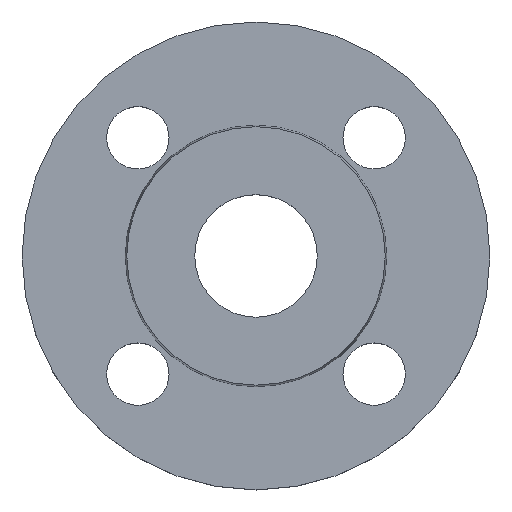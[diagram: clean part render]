
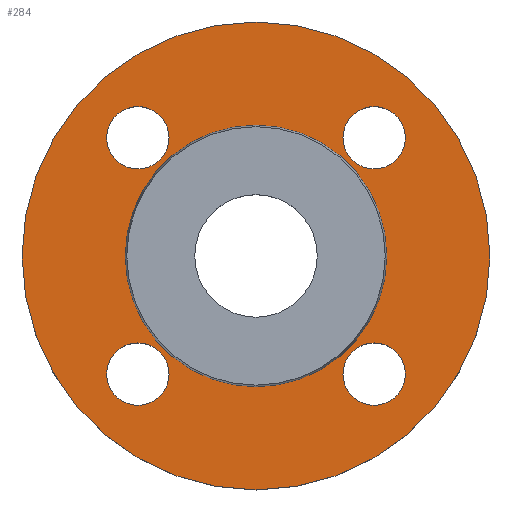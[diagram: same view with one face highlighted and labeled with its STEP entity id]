
A CAD part, top view. The second image highlights one B-rep face of the part: STEP entity #284.
In plain terms, the highlighted planar face has unit normal (0, 0, 1).
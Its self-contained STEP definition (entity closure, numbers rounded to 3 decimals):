
#13 = CIRCLE ( 'NONE', #22, 7. ) ;
#16 = CIRCLE ( 'NONE', #17, 7. ) ;
#17 = AXIS2_PLACEMENT_3D ( 'NONE', #171, #170, #168 ) ;
#18 = CIRCLE ( 'NONE', #23, 7. ) ;
#22 = AXIS2_PLACEMENT_3D ( 'NONE', #192, #191, #182 ) ;
#23 = AXIS2_PLACEMENT_3D ( 'NONE', #166, #164, #158 ) ;
#25 = CIRCLE ( 'NONE', #30, 7. ) ;
#30 = AXIS2_PLACEMENT_3D ( 'NONE', #137, #136, #133 ) ;
#32 = EDGE_CURVE ( 'NONE', #188, #371, #228, .T. ) ;
#37 = AXIS2_PLACEMENT_3D ( 'NONE', #370, #378, #376 ) ;
#39 = EDGE_CURVE ( 'NONE', #367, #349, #213, .T. ) ;
#41 = EDGE_CURVE ( 'NONE', #384, #172, #208, .T. ) ;
#57 = CIRCLE ( 'NONE', #90, 7. ) ;
#58 = AXIS2_PLACEMENT_3D ( 'NONE', #339, #337, #333 ) ;
#59 = CIRCLE ( 'NONE', #58, 7. ) ;
#81 = AXIS2_PLACEMENT_3D ( 'NONE', #480, #498, #459 ) ;
#90 = AXIS2_PLACEMENT_3D ( 'NONE', #332, #331, #330 ) ;
#99 = EDGE_CURVE ( 'NONE', #172, #384, #175, .T. ) ;
#105 = EDGE_CURVE ( 'NONE', #457, #381, #167, .T. ) ;
#119 = CIRCLE ( 'NONE', #37, 52.5 ) ;
#125 = VERTEX_POINT ( 'NONE', #555 ) ;
#133 = DIRECTION ( 'NONE',  ( 1., 0., 0. ) ) ;
#136 = DIRECTION ( 'NONE',  ( 0., 0., -1. ) ) ;
#137 = CARTESIAN_POINT ( 'NONE',  ( -26.517, -26.517, -2. ) ) ;
#145 = EDGE_LOOP ( 'NONE', ( #397, #375 ) ) ;
#158 = DIRECTION ( 'NONE',  ( 1., 0., 0. ) ) ;
#160 = AXIS2_PLACEMENT_3D ( 'NONE', #551, #552, #553 ) ;
#162 = EDGE_LOOP ( 'NONE', ( #394, #462 ) ) ;
#164 = DIRECTION ( 'NONE',  ( 0., 0., -1. ) ) ;
#165 = EDGE_LOOP ( 'NONE', ( #389, #387 ) ) ;
#166 = CARTESIAN_POINT ( 'NONE',  ( 26.517, 26.517, -2. ) ) ;
#167 = CIRCLE ( 'NONE', #160, 7. ) ;
#168 = DIRECTION ( 'NONE',  ( 1., 0., 0. ) ) ;
#169 = EDGE_LOOP ( 'NONE', ( #393, #388 ) ) ;
#170 = DIRECTION ( 'NONE',  ( 0., 0., -1. ) ) ;
#171 = CARTESIAN_POINT ( 'NONE',  ( 26.517, 26.517, -2. ) ) ;
#172 = VERTEX_POINT ( 'NONE', #566 ) ;
#174 = AXIS2_PLACEMENT_3D ( 'NONE', #540, #541, #542 ) ;
#175 = CIRCLE ( 'NONE', #174, 29.353 ) ;
#182 = DIRECTION ( 'NONE',  ( 1., 0., 0. ) ) ;
#186 = EDGE_LOOP ( 'NONE', ( #372, #391 ) ) ;
#188 = VERTEX_POINT ( 'NONE', #358 ) ;
#190 = EDGE_LOOP ( 'NONE', ( #379, #382 ) ) ;
#191 = DIRECTION ( 'NONE',  ( 0., 0., -1. ) ) ;
#192 = CARTESIAN_POINT ( 'NONE',  ( -26.517, -26.517, -2. ) ) ;
#206 = AXIS2_PLACEMENT_3D ( 'NONE', #512, #513, #514 ) ;
#208 = CIRCLE ( 'NONE', #206, 29.353 ) ;
#210 = EDGE_CURVE ( 'NONE', #371, #188, #119, .T. ) ;
#212 = AXIS2_PLACEMENT_3D ( 'NONE', #508, #509, #511 ) ;
#213 = CIRCLE ( 'NONE', #212, 7. ) ;
#228 = CIRCLE ( 'NONE', #243, 52.5 ) ;
#243 = AXIS2_PLACEMENT_3D ( 'NONE', #463, #503, #504 ) ;
#253 = CARTESIAN_POINT ( 'NONE',  ( -19.517, 26.517, -2. ) ) ;
#262 = CARTESIAN_POINT ( 'NONE',  ( 33.517, 26.517, -2. ) ) ;
#284 = ADVANCED_FACE ( 'NONE', ( #485, #464, #486, #450, #484, #447 ), #465, .T. ) ;
#306 = CARTESIAN_POINT ( 'NONE',  ( -29.353, 0., -2. ) ) ;
#318 = CARTESIAN_POINT ( 'NONE',  ( -33.517, 26.517, -2. ) ) ;
#319 = CARTESIAN_POINT ( 'NONE',  ( -52.5, 0., -2. ) ) ;
#321 = EDGE_CURVE ( 'NONE', #381, #457, #59, .T. ) ;
#322 = CARTESIAN_POINT ( 'NONE',  ( 33.517, -26.517, -2. ) ) ;
#323 = CARTESIAN_POINT ( 'NONE',  ( -33.517, -26.517, -2. ) ) ;
#328 = CARTESIAN_POINT ( 'NONE',  ( 19.517, -26.517, -2. ) ) ;
#329 = CARTESIAN_POINT ( 'NONE',  ( -19.517, -26.517, -2. ) ) ;
#330 = DIRECTION ( 'NONE',  ( 1., 0., 0. ) ) ;
#331 = DIRECTION ( 'NONE',  ( 0., 0., -1. ) ) ;
#332 = CARTESIAN_POINT ( 'NONE',  ( 26.517, -26.517, -2. ) ) ;
#333 = DIRECTION ( 'NONE',  ( 1., 0., 0. ) ) ;
#337 = DIRECTION ( 'NONE',  ( 0., 0., -1. ) ) ;
#339 = CARTESIAN_POINT ( 'NONE',  ( -26.517, 26.517, -2. ) ) ;
#344 = EDGE_CURVE ( 'NONE', #349, #367, #57, .T. ) ;
#345 = VERTEX_POINT ( 'NONE', #329 ) ;
#349 = VERTEX_POINT ( 'NONE', #328 ) ;
#358 = CARTESIAN_POINT ( 'NONE',  ( 52.5, 0., -2. ) ) ;
#362 = VERTEX_POINT ( 'NONE', #323 ) ;
#367 = VERTEX_POINT ( 'NONE', #322 ) ;
#370 = CARTESIAN_POINT ( 'NONE',  ( 0., 0., -2. ) ) ;
#371 = VERTEX_POINT ( 'NONE', #319 ) ;
#372 = ORIENTED_EDGE ( 'NONE', *, *, #105, .T. ) ;
#375 = ORIENTED_EDGE ( 'NONE', *, *, #344, .T. ) ;
#376 = DIRECTION ( 'NONE',  ( -1., 0., 0. ) ) ;
#378 = DIRECTION ( 'NONE',  ( 0., 0., -1. ) ) ;
#379 = ORIENTED_EDGE ( 'NONE', *, *, #529, .T. ) ;
#381 = VERTEX_POINT ( 'NONE', #318 ) ;
#382 = ORIENTED_EDGE ( 'NONE', *, *, #580, .T. ) ;
#384 = VERTEX_POINT ( 'NONE', #306 ) ;
#387 = ORIENTED_EDGE ( 'NONE', *, *, #99, .T. ) ;
#388 = ORIENTED_EDGE ( 'NONE', *, *, #560, .T. ) ;
#389 = ORIENTED_EDGE ( 'NONE', *, *, #41, .T. ) ;
#391 = ORIENTED_EDGE ( 'NONE', *, *, #321, .T. ) ;
#393 = ORIENTED_EDGE ( 'NONE', *, *, #574, .T. ) ;
#394 = ORIENTED_EDGE ( 'NONE', *, *, #32, .F. ) ;
#397 = ORIENTED_EDGE ( 'NONE', *, *, #39, .T. ) ;
#447 = FACE_OUTER_BOUND ( 'NONE', #162, .T. ) ;
#450 = FACE_BOUND ( 'NONE', #169, .T. ) ;
#455 = VERTEX_POINT ( 'NONE', #262 ) ;
#457 = VERTEX_POINT ( 'NONE', #253 ) ;
#459 = DIRECTION ( 'NONE',  ( 1., 0., 0. ) ) ;
#462 = ORIENTED_EDGE ( 'NONE', *, *, #210, .F. ) ;
#463 = CARTESIAN_POINT ( 'NONE',  ( 0., 0., -2. ) ) ;
#464 = FACE_BOUND ( 'NONE', #190, .T. ) ;
#465 = PLANE ( 'NONE',  #81 ) ;
#480 = CARTESIAN_POINT ( 'NONE',  ( 29.353, 0., -2. ) ) ;
#484 = FACE_BOUND ( 'NONE', #165, .T. ) ;
#485 = FACE_BOUND ( 'NONE', #145, .T. ) ;
#486 = FACE_BOUND ( 'NONE', #186, .T. ) ;
#498 = DIRECTION ( 'NONE',  ( 0., 0., 1. ) ) ;
#503 = DIRECTION ( 'NONE',  ( 0., 0., -1. ) ) ;
#504 = DIRECTION ( 'NONE',  ( -1., 0., 0. ) ) ;
#508 = CARTESIAN_POINT ( 'NONE',  ( 26.517, -26.517, -2. ) ) ;
#509 = DIRECTION ( 'NONE',  ( 0., 0., -1. ) ) ;
#511 = DIRECTION ( 'NONE',  ( 1., 0., 0. ) ) ;
#512 = CARTESIAN_POINT ( 'NONE',  ( 0., 0., -2. ) ) ;
#513 = DIRECTION ( 'NONE',  ( 0., 0., -1. ) ) ;
#514 = DIRECTION ( 'NONE',  ( -1., 0., 0. ) ) ;
#529 = EDGE_CURVE ( 'NONE', #345, #362, #13, .T. ) ;
#540 = CARTESIAN_POINT ( 'NONE',  ( 0., 0., -2. ) ) ;
#541 = DIRECTION ( 'NONE',  ( 0., 0., -1. ) ) ;
#542 = DIRECTION ( 'NONE',  ( -1., 0., 0. ) ) ;
#551 = CARTESIAN_POINT ( 'NONE',  ( -26.517, 26.517, -2. ) ) ;
#552 = DIRECTION ( 'NONE',  ( 0., 0., -1. ) ) ;
#553 = DIRECTION ( 'NONE',  ( 1., 0., 0. ) ) ;
#555 = CARTESIAN_POINT ( 'NONE',  ( 19.517, 26.517, -2. ) ) ;
#560 = EDGE_CURVE ( 'NONE', #125, #455, #16, .T. ) ;
#566 = CARTESIAN_POINT ( 'NONE',  ( 29.353, 0., -2. ) ) ;
#574 = EDGE_CURVE ( 'NONE', #455, #125, #18, .T. ) ;
#580 = EDGE_CURVE ( 'NONE', #362, #345, #25, .T. ) ;
